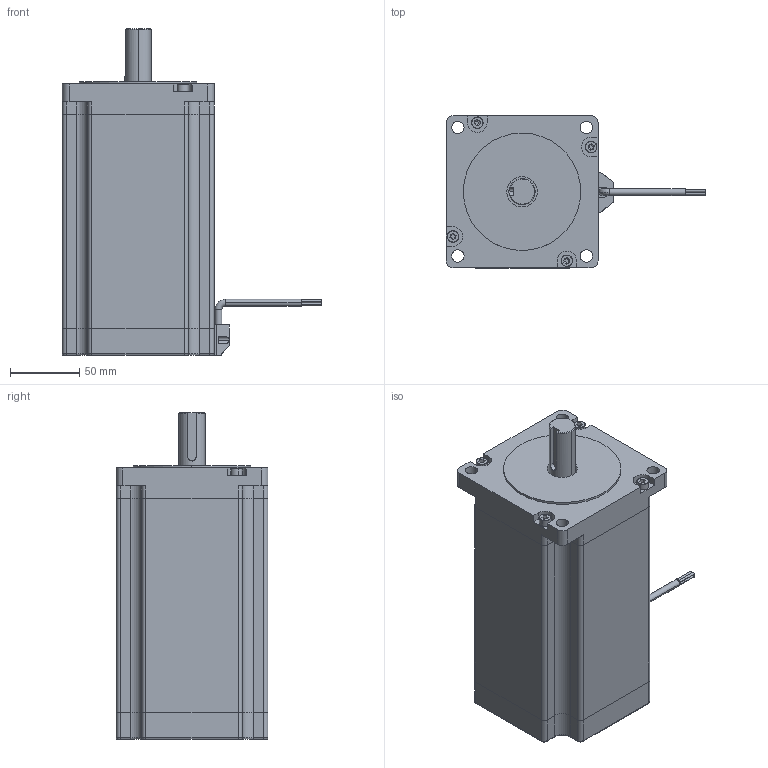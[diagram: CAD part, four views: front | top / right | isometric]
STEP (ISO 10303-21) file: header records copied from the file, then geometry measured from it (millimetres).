
FILE_DESCRIPTION (( 'STEP AP214' ), '1' );
FILE_NAME ('110BYGH3200-A-19.STEP', '2020-05-22T07:19:19', ( 'Windows' ), ( 'Microsoft' ), 'SwSTEP 2.0', 'SolidWorks 2015', '' );
FILE_SCHEMA (( 'AUTOMOTIVE_DESIGN' ));
Length unit declared in the file: millimetre
Products named in the file (7): M5X140囀鞠褒埴翐芛; 110揤盄裔; 110粣粣噤19瑩羞; 110綴傷裔; 110ヶ傷裔湮楊擘; 110隅赽105; 110BYGH3200-A-19
Assembly tree (9 placements, depth 2):
  110BYGH3200-A-19
    110隅赽105
    110ヶ傷裔湮楊擘
    110綴傷裔
    110粣粣噤19瑩羞
    110揤盄裔
    M5X140囀鞠褒埴翐芛  x4
Bounding box: 188.09 x 110 x 236.5 mm (x, y, z)
Volume: 2186960.6 mm3; surface area: 178658.5 mm2
Topology: 13 solids, 13 shells, 319 faces, 780 edges, 491 vertices
Faces by surface type: cylinder 155, plane 131, torus 22, cone 5, bspline 4, sphere 2
Entity records: 9886 total; most frequent: CARTESIAN_POINT 1468, DIRECTION 1379, ORIENTED_EDGE 1272, EDGE_CURVE 636, AXIS2_PLACEMENT_3D 512, VERTEX_POINT 407, LINE 355, VECTOR 355
